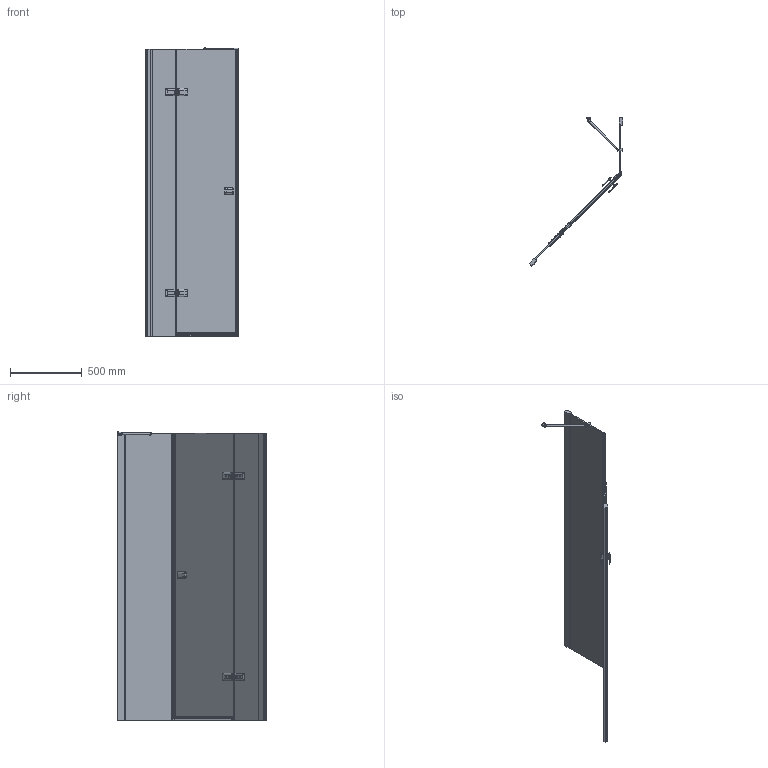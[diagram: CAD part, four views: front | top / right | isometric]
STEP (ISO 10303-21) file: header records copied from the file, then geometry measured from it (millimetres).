
FILE_DESCRIPTION(/* description */ (''),/* implementation_level */ '2;1');
FILE_NAME(/* name */ 'E:\Работа\Сергей\Душевые кабинки\! Работа\! 3\TREND DOOR GK-863FP\TREND DOOR GK-863FP левая модель\TREND DOOR GK-863FP ЛЕВАЯ-3D.stp',/* time_stamp */ '2017-12-02T12:05:13+03:00',/* author */ ('PC'),/* organization */ (''),/* preprocessor_version */ 'ST-DEVELOPER v15.2',/* originating_system */ 'Autodesk Inventor 2014',/* authorisation */ '');
FILE_SCHEMA (('AUTOMOTIVE_DESIGN { 1 0 10303 214 3 1 1 }'));
Products named in the file (1): TREND DOOR GK-863FP ЛЕВАЯ-3D
Bounding box: 652.12 x 1031.58 x 2009.49 mm (x, y, z)
Volume: 22066131.1 mm3; surface area: 5600323.6 mm2
Topology: 15 solids, 15 shells, 1273 faces, 3410 edges, 2134 vertices
Faces by surface type: plane 771, cylinder 312, bspline 136, torus 26, cone 18, sphere 10
Full cylindrical faces by diameter (mm): 6 x2, 9 x8, 13 x2, 15 x1, 20 x2, 26 x1
Entity records: 56275 total; most frequent: CARTESIAN_POINT 23986, ORIENTED_EDGE 6650, DIRECTION 6222, EDGE_CURVE 3325, VERTEX_POINT 2118, LINE 2096, VECTOR 2096, AXIS2_PLACEMENT_3D 2063
